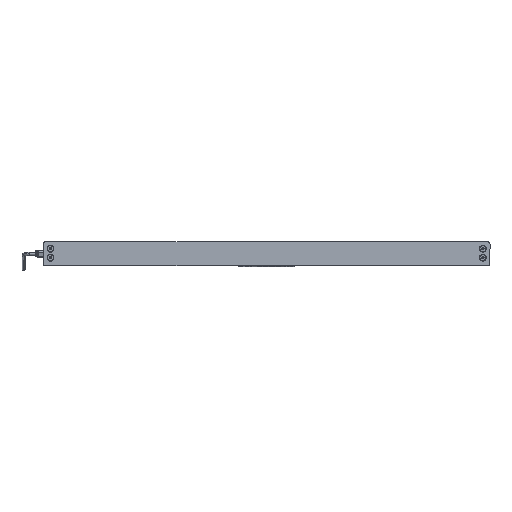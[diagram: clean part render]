
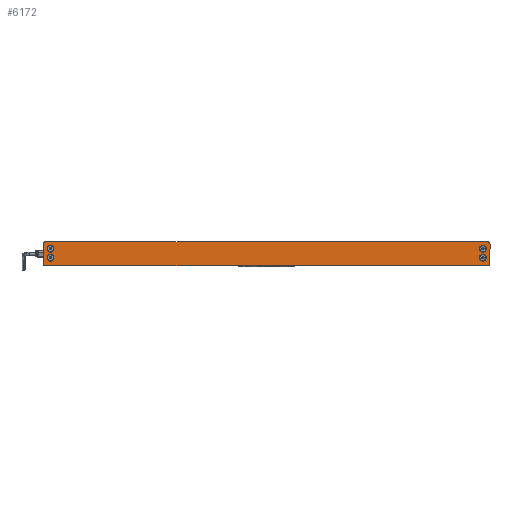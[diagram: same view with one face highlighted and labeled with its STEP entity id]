
A CAD part, left-side view. The second image highlights one B-rep face of the part: STEP entity #6172.
In plain terms, the highlighted planar face has unit normal (-1, 0, 0) as drawn and (0, 0, -1) by its records, which use the part's own axes.
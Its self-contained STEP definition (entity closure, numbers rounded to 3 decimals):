
#126 = ORIENTED_EDGE ( 'NONE', *, *, #2656, .F. ) ;
#536 = DIRECTION ( 'NONE',  ( -1., 0., 0. ) ) ;
#816 = CARTESIAN_POINT ( 'NONE',  ( 350.7, 8.5, 0. ) ) ;
#888 = CIRCLE ( 'NONE', #24339, 4. ) ;
#907 = CIRCLE ( 'NONE', #6749, 5.6 ) ;
#1314 = CARTESIAN_POINT ( 'NONE',  ( -350.7, 8.5, 0. ) ) ;
#1399 = CARTESIAN_POINT ( 'NONE',  ( 356.3, 8.5, 0. ) ) ;
#1446 = EDGE_CURVE ( 'NONE', #5702, #2588, #6712, .T. ) ;
#1466 = DIRECTION ( 'NONE',  ( -1., 0., 0. ) ) ;
#1967 = VERTEX_POINT ( 'NONE', #19651 ) ;
#2341 = VERTEX_POINT ( 'NONE', #21490 ) ;
#2458 = DIRECTION ( 'NONE',  ( -1., 0., 0. ) ) ;
#2471 = CARTESIAN_POINT ( 'NONE',  ( 368., -16., 0. ) ) ;
#2558 = VECTOR ( 'NONE', #3092, 1000. ) ;
#2588 = VERTEX_POINT ( 'NONE', #21199 ) ;
#2616 = DIRECTION ( 'NONE',  ( -1., 0., 0. ) ) ;
#2620 = ORIENTED_EDGE ( 'NONE', *, *, #5336, .F. ) ;
#2621 = VERTEX_POINT ( 'NONE', #17632 ) ;
#2656 = EDGE_CURVE ( 'NONE', #2621, #20857, #6391, .T. ) ;
#2681 = DIRECTION ( 'NONE',  ( -1., 0., 0. ) ) ;
#2688 = EDGE_LOOP ( 'NONE', ( #4027, #25036 ) ) ;
#3058 = ORIENTED_EDGE ( 'NONE', *, *, #5567, .F. ) ;
#3071 = ORIENTED_EDGE ( 'NONE', *, *, #16475, .F. ) ;
#3092 = DIRECTION ( 'NONE',  ( -1., 0., 0. ) ) ;
#3444 = CARTESIAN_POINT ( 'NONE',  ( 361.9, -6.3, 0. ) ) ;
#3767 = CARTESIAN_POINT ( 'NONE',  ( 364., -20., 0. ) ) ;
#4027 = ORIENTED_EDGE ( 'NONE', *, *, #14405, .F. ) ;
#4283 = DIRECTION ( 'NONE',  ( 0., 0., -1. ) ) ;
#4565 = ORIENTED_EDGE ( 'NONE', *, *, #5741, .F. ) ;
#4677 = CIRCLE ( 'NONE', #16817, 5.6 ) ;
#4703 = AXIS2_PLACEMENT_3D ( 'NONE', #7530, #13318, #25633 ) ;
#4929 = CIRCLE ( 'NONE', #22529, 4. ) ;
#5104 = VERTEX_POINT ( 'NONE', #3767 ) ;
#5126 = CARTESIAN_POINT ( 'NONE',  ( -364., -20., 0. ) ) ;
#5182 = DIRECTION ( 'NONE',  ( 0., 0., -1. ) ) ;
#5336 = EDGE_CURVE ( 'NONE', #6980, #2621, #24606, .T. ) ;
#5567 = EDGE_CURVE ( 'NONE', #2341, #5104, #11440, .T. ) ;
#5572 = EDGE_CURVE ( 'NONE', #2588, #6980, #888, .T. ) ;
#5618 = VERTEX_POINT ( 'NONE', #13397 ) ;
#5691 = CARTESIAN_POINT ( 'NONE',  ( -368., -16., 0. ) ) ;
#5702 = VERTEX_POINT ( 'NONE', #2471 ) ;
#5741 = EDGE_CURVE ( 'NONE', #23373, #20167, #907, .T. ) ;
#5757 = AXIS2_PLACEMENT_3D ( 'NONE', #6760, #20940, #23032 ) ;
#6172 = ADVANCED_FACE ( 'NONE', ( #24359, #12691, #20300, #14255, #6384 ), #14394, .T. ) ;
#6384 = FACE_OUTER_BOUND ( 'NONE', #6903, .T. ) ;
#6391 = CIRCLE ( 'NONE', #4703, 4. ) ;
#6615 = EDGE_CURVE ( 'NONE', #24222, #20923, #22697, .T. ) ;
#6712 = LINE ( 'NONE', #12494, #24897 ) ;
#6749 = AXIS2_PLACEMENT_3D ( 'NONE', #12588, #18356, #2616 ) ;
#6760 = CARTESIAN_POINT ( 'NONE',  ( 356.3, -6.3, 0. ) ) ;
#6903 = EDGE_LOOP ( 'NONE', ( #17398, #15775, #23113, #3058, #8007, #19680, #126, #2620 ) ) ;
#6980 = VERTEX_POINT ( 'NONE', #20529 ) ;
#7530 = CARTESIAN_POINT ( 'NONE',  ( -364., 16., 0. ) ) ;
#8007 = ORIENTED_EDGE ( 'NONE', *, *, #12524, .F. ) ;
#8249 = VERTEX_POINT ( 'NONE', #816 ) ;
#9210 = CIRCLE ( 'NONE', #14221, 5.6 ) ;
#9679 = CARTESIAN_POINT ( 'NONE',  ( 356.3, 8.5, 0. ) ) ;
#9681 = VECTOR ( 'NONE', #19430, 1000. ) ;
#9811 = DIRECTION ( 'NONE',  ( 0., 0., -1. ) ) ;
#10029 = DIRECTION ( 'NONE',  ( 0., -1., 0. ) ) ;
#10202 = CARTESIAN_POINT ( 'NONE',  ( -368., 16., 0. ) ) ;
#10368 = ORIENTED_EDGE ( 'NONE', *, *, #23241, .F. ) ;
#10687 = AXIS2_PLACEMENT_3D ( 'NONE', #24797, #21012, #25048 ) ;
#10950 = DIRECTION ( 'NONE',  ( 0., 0., -1. ) ) ;
#10970 = DIRECTION ( 'NONE',  ( -1., 0., 0. ) ) ;
#11440 = LINE ( 'NONE', #5126, #9681 ) ;
#11679 = DIRECTION ( 'NONE',  ( 0., 0., -1. ) ) ;
#11760 = DIRECTION ( 'NONE',  ( 0., 1., 0. ) ) ;
#11803 = AXIS2_PLACEMENT_3D ( 'NONE', #22614, #10950, #2681 ) ;
#11894 = EDGE_CURVE ( 'NONE', #5104, #5702, #21978, .T. ) ;
#12117 = CARTESIAN_POINT ( 'NONE',  ( 361.9, 8.5, 0. ) ) ;
#12446 = CARTESIAN_POINT ( 'NONE',  ( 356.3, -6.3, 0. ) ) ;
#12494 = CARTESIAN_POINT ( 'NONE',  ( 368., -16., 0. ) ) ;
#12504 = EDGE_CURVE ( 'NONE', #21382, #1967, #15823, .T. ) ;
#12509 = CIRCLE ( 'NONE', #23828, 5.6 ) ;
#12524 = EDGE_CURVE ( 'NONE', #5618, #2341, #4929, .T. ) ;
#12588 = CARTESIAN_POINT ( 'NONE',  ( -356.3, 8.5, 0. ) ) ;
#12621 = EDGE_CURVE ( 'NONE', #12786, #8249, #20015, .T. ) ;
#12691 = FACE_BOUND ( 'NONE', #20645, .T. ) ;
#12724 = CARTESIAN_POINT ( 'NONE',  ( -356.3, -6.3, 0. ) ) ;
#12786 = VERTEX_POINT ( 'NONE', #12117 ) ;
#13072 = CARTESIAN_POINT ( 'NONE',  ( -364., 20., 0. ) ) ;
#13318 = DIRECTION ( 'NONE',  ( 0., 0., 1. ) ) ;
#13397 = CARTESIAN_POINT ( 'NONE',  ( -368., -16., 0. ) ) ;
#13970 = LINE ( 'NONE', #5691, #20535 ) ;
#14017 = EDGE_CURVE ( 'NONE', #20167, #23373, #12509, .T. ) ;
#14159 = ORIENTED_EDGE ( 'NONE', *, *, #14017, .F. ) ;
#14221 = AXIS2_PLACEMENT_3D ( 'NONE', #12724, #18493, #536 ) ;
#14255 = FACE_BOUND ( 'NONE', #23574, .T. ) ;
#14394 = PLANE ( 'NONE',  #15967 ) ;
#14405 = EDGE_CURVE ( 'NONE', #8249, #12786, #22173, .T. ) ;
#14882 = EDGE_LOOP ( 'NONE', ( #14159, #4565 ) ) ;
#14899 = DIRECTION ( 'NONE',  ( 0., 0., 1. ) ) ;
#15124 = ORIENTED_EDGE ( 'NONE', *, *, #6615, .F. ) ;
#15775 = ORIENTED_EDGE ( 'NONE', *, *, #1446, .F. ) ;
#15823 = CIRCLE ( 'NONE', #5757, 5.6 ) ;
#15967 = AXIS2_PLACEMENT_3D ( 'NONE', #24220, #4283, #20161 ) ;
#16475 = EDGE_CURVE ( 'NONE', #1967, #21382, #4677, .T. ) ;
#16817 = AXIS2_PLACEMENT_3D ( 'NONE', #12446, #22284, #2458 ) ;
#16963 = CARTESIAN_POINT ( 'NONE',  ( -356.3, 8.5, 0. ) ) ;
#17065 = CARTESIAN_POINT ( 'NONE',  ( 364., 16., 0. ) ) ;
#17208 = DIRECTION ( 'NONE',  ( 0., 0., 1. ) ) ;
#17398 = ORIENTED_EDGE ( 'NONE', *, *, #5572, .F. ) ;
#17504 = DIRECTION ( 'NONE',  ( -1., 0., 0. ) ) ;
#17632 = CARTESIAN_POINT ( 'NONE',  ( -364., 20., 0. ) ) ;
#18356 = DIRECTION ( 'NONE',  ( 0., 0., -1. ) ) ;
#18493 = DIRECTION ( 'NONE',  ( 0., 0., -1. ) ) ;
#18830 = CARTESIAN_POINT ( 'NONE',  ( -350.7, -6.3, 0. ) ) ;
#19430 = DIRECTION ( 'NONE',  ( 1., 0., 0. ) ) ;
#19651 = CARTESIAN_POINT ( 'NONE',  ( 350.7, -6.3, 0. ) ) ;
#19668 = DIRECTION ( 'NONE',  ( -1., 0., 0. ) ) ;
#19680 = ORIENTED_EDGE ( 'NONE', *, *, #22002, .F. ) ;
#20015 = CIRCLE ( 'NONE', #25467, 5.6 ) ;
#20161 = DIRECTION ( 'NONE',  ( -1., 0., 0. ) ) ;
#20167 = VERTEX_POINT ( 'NONE', #25259 ) ;
#20300 = FACE_BOUND ( 'NONE', #14882, .T. ) ;
#20436 = ORIENTED_EDGE ( 'NONE', *, *, #12504, .F. ) ;
#20529 = CARTESIAN_POINT ( 'NONE',  ( 364., 20., 0. ) ) ;
#20535 = VECTOR ( 'NONE', #10029, 1000. ) ;
#20645 = EDGE_LOOP ( 'NONE', ( #3071, #20436 ) ) ;
#20857 = VERTEX_POINT ( 'NONE', #10202 ) ;
#20923 = VERTEX_POINT ( 'NONE', #18830 ) ;
#20940 = DIRECTION ( 'NONE',  ( 0., 0., -1. ) ) ;
#21012 = DIRECTION ( 'NONE',  ( 0., 0., 1. ) ) ;
#21199 = CARTESIAN_POINT ( 'NONE',  ( 368., 16., 0. ) ) ;
#21382 = VERTEX_POINT ( 'NONE', #3444 ) ;
#21490 = CARTESIAN_POINT ( 'NONE',  ( -364., -20., 0. ) ) ;
#21978 = CIRCLE ( 'NONE', #10687, 4. ) ;
#22002 = EDGE_CURVE ( 'NONE', #20857, #5618, #13970, .T. ) ;
#22173 = CIRCLE ( 'NONE', #25106, 5.6 ) ;
#22284 = DIRECTION ( 'NONE',  ( 0., 0., -1. ) ) ;
#22506 = CARTESIAN_POINT ( 'NONE',  ( -364., -16., 0. ) ) ;
#22529 = AXIS2_PLACEMENT_3D ( 'NONE', #22506, #14899, #10970 ) ;
#22614 = CARTESIAN_POINT ( 'NONE',  ( -356.3, -6.3, 0. ) ) ;
#22697 = CIRCLE ( 'NONE', #11803, 5.6 ) ;
#23032 = DIRECTION ( 'NONE',  ( -1., 0., 0. ) ) ;
#23113 = ORIENTED_EDGE ( 'NONE', *, *, #11894, .F. ) ;
#23241 = EDGE_CURVE ( 'NONE', #20923, #24222, #9210, .T. ) ;
#23373 = VERTEX_POINT ( 'NONE', #1314 ) ;
#23457 = DIRECTION ( 'NONE',  ( -1., 0., 0. ) ) ;
#23574 = EDGE_LOOP ( 'NONE', ( #15124, #10368 ) ) ;
#23828 = AXIS2_PLACEMENT_3D ( 'NONE', #16963, #11679, #19668 ) ;
#24220 = CARTESIAN_POINT ( 'NONE',  ( 364., 16., 0. ) ) ;
#24222 = VERTEX_POINT ( 'NONE', #25178 ) ;
#24339 = AXIS2_PLACEMENT_3D ( 'NONE', #17065, #17208, #1466 ) ;
#24359 = FACE_BOUND ( 'NONE', #2688, .T. ) ;
#24606 = LINE ( 'NONE', #13072, #2558 ) ;
#24797 = CARTESIAN_POINT ( 'NONE',  ( 364., -16., 0. ) ) ;
#24897 = VECTOR ( 'NONE', #11760, 1000. ) ;
#25036 = ORIENTED_EDGE ( 'NONE', *, *, #12621, .F. ) ;
#25048 = DIRECTION ( 'NONE',  ( 1., 0., 0. ) ) ;
#25106 = AXIS2_PLACEMENT_3D ( 'NONE', #9679, #9811, #23457 ) ;
#25178 = CARTESIAN_POINT ( 'NONE',  ( -361.9, -6.3, 0. ) ) ;
#25259 = CARTESIAN_POINT ( 'NONE',  ( -361.9, 8.5, 0. ) ) ;
#25467 = AXIS2_PLACEMENT_3D ( 'NONE', #1399, #5182, #17504 ) ;
#25633 = DIRECTION ( 'NONE',  ( -1., 0., 0. ) ) ;
